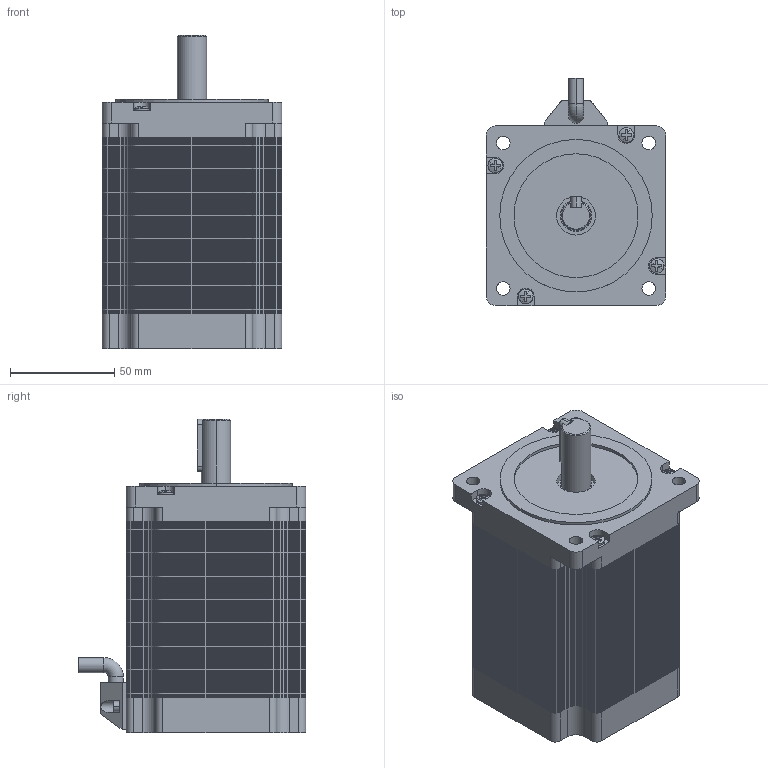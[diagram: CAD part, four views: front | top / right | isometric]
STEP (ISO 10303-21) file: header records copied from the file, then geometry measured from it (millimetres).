
FILE_DESCRIPTION (( 'STEP AP203' ), '1' );
FILE_NAME ('SM3403.STEP', '2020-05-23T03:48:54', ( 'Windows' ), ( 'Microsoft' ), 'SwSTEP 2.0', 'SolidWorks 2016', '' );
FILE_SCHEMA (( 'CONFIG_CONTROL_DESIGN' ));
Products named in the file (1): SM3403
Bounding box: 86 x 109.03 x 150 mm (x, y, z)
Volume: 799319 mm3; surface area: 2298400.1 mm2
Topology: 172 solids, 172 shells, 4635 faces, 12801 edges, 8524 vertices
Faces by surface type: plane 2494, cylinder 2118, cone 13, sphere 8, torus 2
Entity records: 148541 total; most frequent: DIRECTION 26323, CARTESIAN_POINT 26103, ORIENTED_EDGE 25586, EDGE_CURVE 12793, AXIS2_PLACEMENT_3D 8924, VERTEX_POINT 8524, LINE 8475, VECTOR 8475
